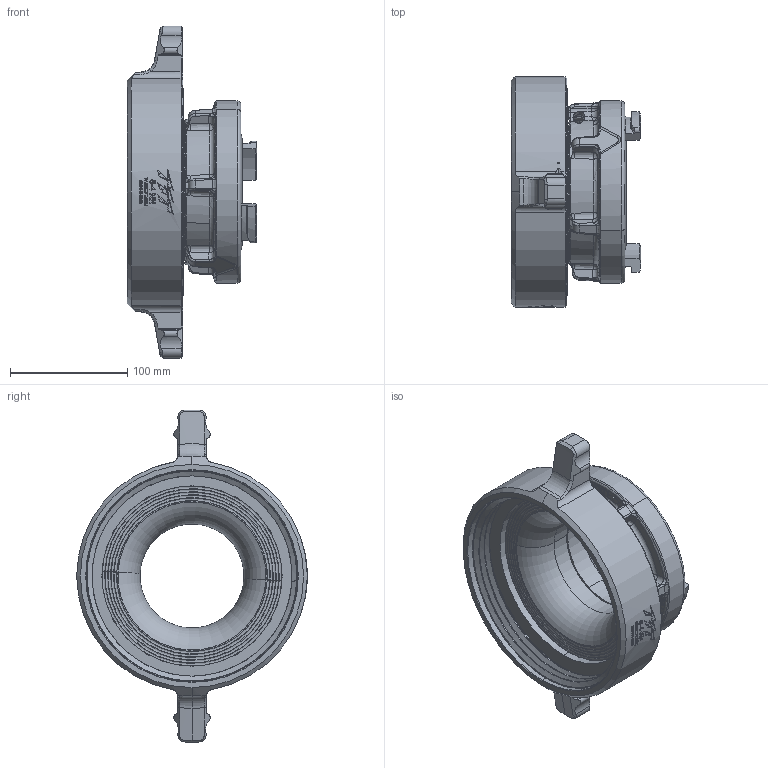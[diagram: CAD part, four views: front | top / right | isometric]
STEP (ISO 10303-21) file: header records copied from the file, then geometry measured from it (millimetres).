
FILE_DESCRIPTION (( 'STEP AP203' ), '1' );
FILE_NAME ('AA1HSP-NX.step', '2014-05-13T18:30:13', ( 'user' ), ( '' ), 'SwSTEP 2.0', 'SolidWorks 2012', '' );
FILE_SCHEMA (( 'CONFIG_CONTROL_DESIGN' ));
Length unit declared in the file: inch
Products named in the file (1): AA1HSP-NX
Bounding box: 110.24 x 196.85 x 283.46 mm (x, y, z)
Surface area: 212594.7 mm2 (no closed solid volume)
Topology: 0 solids, 24 shells, 928 faces, 3629 edges, 2588 vertices
Faces by surface type: bspline 287, plane 274, cylinder 207, torus 90, cone 70
Entity records: 54718 total; most frequent: CARTESIAN_POINT 29309, ORIENTED_EDGE 5505, DIRECTION 4050, EDGE_CURVE 3615, VERTEX_POINT 2588, AXIS2_PLACEMENT_3D 1417, LINE 1216, VECTOR 1216
